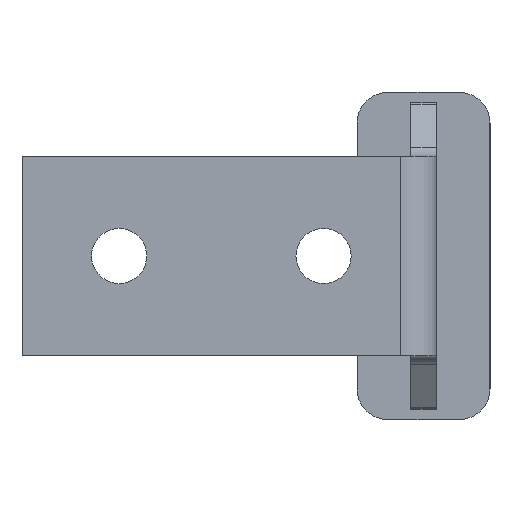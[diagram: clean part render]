
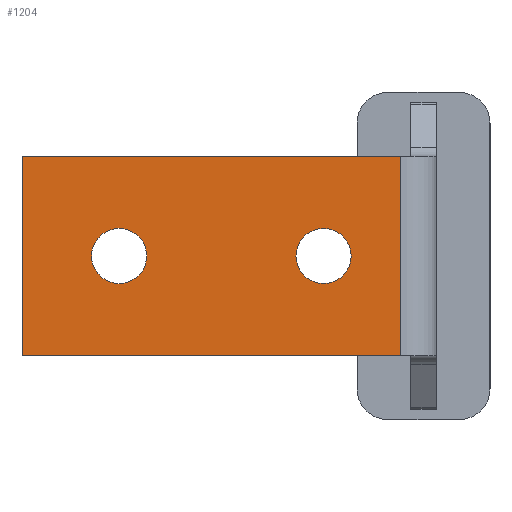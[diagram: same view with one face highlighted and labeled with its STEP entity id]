
A CAD part, left-side view. The second image highlights one B-rep face of the part: STEP entity #1204.
In plain terms, the highlighted planar face has unit normal (-1, 0, 0) as drawn and (0, -1, 0) by its records, which use the part's own axes.
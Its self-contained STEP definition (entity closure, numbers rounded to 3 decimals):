
#34 = CARTESIAN_POINT ( 'NONE',  ( 0.9, 35.1, -23.221 ) ) ;
#61 = EDGE_CURVE ( 'NONE', #2044, #718, #1691, .T. ) ;
#87 = CARTESIAN_POINT ( 'NONE',  ( -9.75, 35.1, 2.25 ) ) ;
#103 = VERTEX_POINT ( 'NONE', #168 ) ;
#108 = EDGE_CURVE ( 'NONE', #2167, #1112, #907, .T. ) ;
#137 = DIRECTION ( 'NONE',  ( 0., 1., 0. ) ) ;
#151 = AXIS2_PLACEMENT_3D ( 'NONE', #693, #1198, #1708 ) ;
#168 = CARTESIAN_POINT ( 'NONE',  ( 2.7, 35.1, 29.779 ) ) ;
#188 = CARTESIAN_POINT ( 'NONE',  ( -2.7, 35.1, 9.779 ) ) ;
#243 = AXIS2_PLACEMENT_3D ( 'NONE', #1776, #137, #1320 ) ;
#250 = CARTESIAN_POINT ( 'NONE',  ( 9.75, 35.1, 2.25 ) ) ;
#280 = ORIENTED_EDGE ( 'NONE', *, *, #108, .T. ) ;
#304 = ORIENTED_EDGE ( 'NONE', *, *, #2146, .T. ) ;
#315 = CARTESIAN_POINT ( 'NONE',  ( 0.9, 35.1, 2.25 ) ) ;
#355 = DIRECTION ( 'NONE',  ( 0., 1., 0. ) ) ;
#397 = AXIS2_PLACEMENT_3D ( 'NONE', #503, #355, #1695 ) ;
#414 = EDGE_CURVE ( 'NONE', #1322, #1694, #1122, .T. ) ;
#471 = DIRECTION ( 'NONE',  ( 0., 0., 1. ) ) ;
#492 = EDGE_CURVE ( 'NONE', #1322, #2044, #643, .T. ) ;
#503 = CARTESIAN_POINT ( 'NONE',  ( 0., 35.1, 29.779 ) ) ;
#515 = EDGE_LOOP ( 'NONE', ( #1511, #688 ) ) ;
#544 = DIRECTION ( 'NONE',  ( -1., 0., 0. ) ) ;
#555 = VECTOR ( 'NONE', #1171, 1000. ) ;
#643 = LINE ( 'NONE', #1984, #1585 ) ;
#661 = ORIENTED_EDGE ( 'NONE', *, *, #414, .T. ) ;
#688 = ORIENTED_EDGE ( 'NONE', *, *, #1031, .T. ) ;
#693 = CARTESIAN_POINT ( 'NONE',  ( 0., 35.1, 29.779 ) ) ;
#697 = CARTESIAN_POINT ( 'NONE',  ( -9.75, 35.1, 39.279 ) ) ;
#709 = PLANE ( 'NONE',  #1712 ) ;
#718 = VERTEX_POINT ( 'NONE', #1582 ) ;
#727 = CARTESIAN_POINT ( 'NONE',  ( -9.75, 35.1, 39.279 ) ) ;
#851 = DIRECTION ( 'NONE',  ( 0., 0., -1. ) ) ;
#879 = DIRECTION ( 'NONE',  ( 1., 0., 0. ) ) ;
#907 = CIRCLE ( 'NONE', #1290, 2.7 ) ;
#943 = CARTESIAN_POINT ( 'NONE',  ( 2.7, 35.1, 9.779 ) ) ;
#956 = EDGE_LOOP ( 'NONE', ( #1384, #661, #1184, #1747 ) ) ;
#982 = EDGE_LOOP ( 'NONE', ( #280, #304 ) ) ;
#1008 = DIRECTION ( 'NONE',  ( 0., 1., 0. ) ) ;
#1031 = EDGE_CURVE ( 'NONE', #1118, #103, #1778, .T. ) ;
#1092 = FACE_OUTER_BOUND ( 'NONE', #956, .T. ) ;
#1106 = EDGE_CURVE ( 'NONE', #103, #1118, #1677, .T. ) ;
#1112 = VERTEX_POINT ( 'NONE', #188 ) ;
#1118 = VERTEX_POINT ( 'NONE', #1578 ) ;
#1122 = LINE ( 'NONE', #315, #555 ) ;
#1171 = DIRECTION ( 'NONE',  ( 1., 0., 0. ) ) ;
#1175 = VECTOR ( 'NONE', #851, 1000. ) ;
#1184 = ORIENTED_EDGE ( 'NONE', *, *, #1890, .F. ) ;
#1196 = CARTESIAN_POINT ( 'NONE',  ( 9.75, 35.1, 39.279 ) ) ;
#1198 = DIRECTION ( 'NONE',  ( 0., 1., 0. ) ) ;
#1204 = ADVANCED_FACE ( 'NONE', ( #1229, #1907, #1092 ), #709, .T. ) ;
#1210 = CIRCLE ( 'NONE', #243, 2.7 ) ;
#1229 = FACE_BOUND ( 'NONE', #515, .T. ) ;
#1290 = AXIS2_PLACEMENT_3D ( 'NONE', #2189, #1008, #1539 ) ;
#1320 = DIRECTION ( 'NONE',  ( 1., 0., 0. ) ) ;
#1322 = VERTEX_POINT ( 'NONE', #87 ) ;
#1384 = ORIENTED_EDGE ( 'NONE', *, *, #492, .F. ) ;
#1511 = ORIENTED_EDGE ( 'NONE', *, *, #1106, .T. ) ;
#1539 = DIRECTION ( 'NONE',  ( 1., 0., 0. ) ) ;
#1578 = CARTESIAN_POINT ( 'NONE',  ( -2.7, 35.1, 29.779 ) ) ;
#1582 = CARTESIAN_POINT ( 'NONE',  ( 9.75, 35.1, 39.279 ) ) ;
#1585 = VECTOR ( 'NONE', #471, 1000. ) ;
#1677 = CIRCLE ( 'NONE', #151, 2.7 ) ;
#1682 = VECTOR ( 'NONE', #879, 1000. ) ;
#1691 = LINE ( 'NONE', #697, #1682 ) ;
#1694 = VERTEX_POINT ( 'NONE', #250 ) ;
#1695 = DIRECTION ( 'NONE',  ( 1., 0., 0. ) ) ;
#1708 = DIRECTION ( 'NONE',  ( 1., 0., 0. ) ) ;
#1712 = AXIS2_PLACEMENT_3D ( 'NONE', #34, #1757, #544 ) ;
#1747 = ORIENTED_EDGE ( 'NONE', *, *, #61, .F. ) ;
#1757 = DIRECTION ( 'NONE',  ( 0., -1., 0. ) ) ;
#1776 = CARTESIAN_POINT ( 'NONE',  ( 0., 35.1, 9.779 ) ) ;
#1778 = CIRCLE ( 'NONE', #397, 2.7 ) ;
#1890 = EDGE_CURVE ( 'NONE', #718, #1694, #2043, .T. ) ;
#1907 = FACE_BOUND ( 'NONE', #982, .T. ) ;
#1984 = CARTESIAN_POINT ( 'NONE',  ( -9.75, 35.1, 39.279 ) ) ;
#2043 = LINE ( 'NONE', #1196, #1175 ) ;
#2044 = VERTEX_POINT ( 'NONE', #727 ) ;
#2146 = EDGE_CURVE ( 'NONE', #1112, #2167, #1210, .T. ) ;
#2167 = VERTEX_POINT ( 'NONE', #943 ) ;
#2189 = CARTESIAN_POINT ( 'NONE',  ( 0., 35.1, 9.779 ) ) ;
